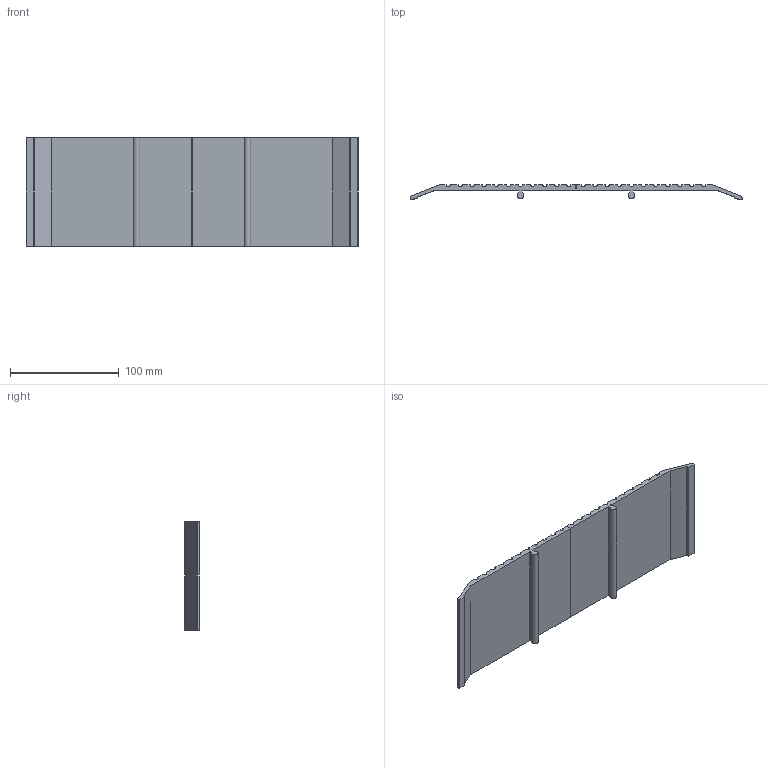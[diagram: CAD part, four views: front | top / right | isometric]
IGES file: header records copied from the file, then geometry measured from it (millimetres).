
Global section: file name: No Iges File Name specified; native system: Autodesk Inventor 2012; preprocessor: AutoDesk Inventor Iges Exporter R2012; author: anna.b; date: 20130731.091341; units: millimetre
Bounding box: 305.14 x 13.46 x 100 mm (x, y, z)
Volume: 138601.2 mm3; surface area: 74181.1 mm2
Topology: 2 solids, 2 shells, 86 faces, 246 edges, 164 vertices
Faces by surface type: plane 48, revolution 28, cylinder 10
